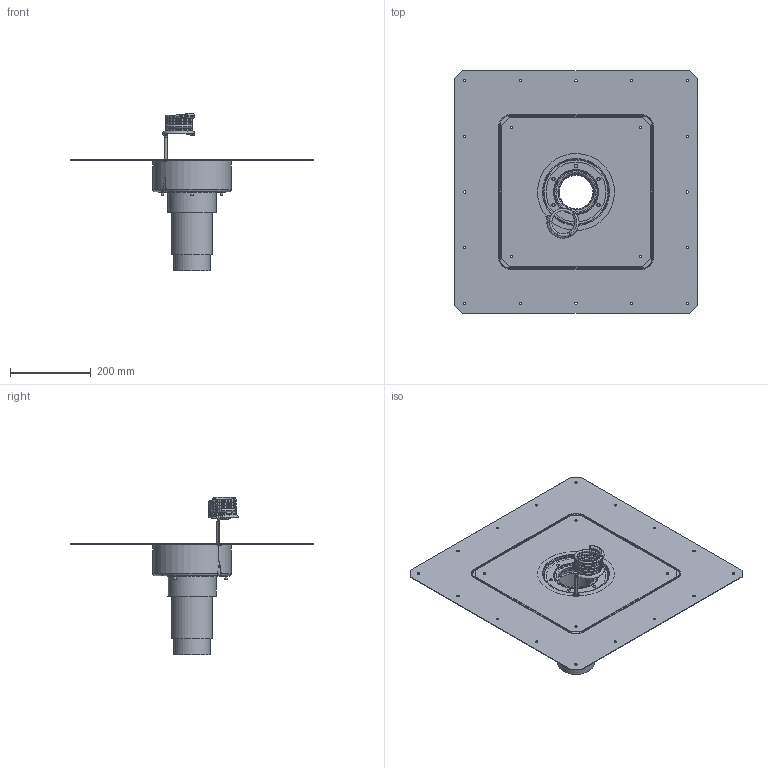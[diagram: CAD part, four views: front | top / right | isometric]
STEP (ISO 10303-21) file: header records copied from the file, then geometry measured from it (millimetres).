
FILE_DESCRIPTION(/* description */ (''),/* implementation_level */ '2;1');
FILE_NAME(/* name */ 'C:\Planerdaten\Export PLA\359.363.00.1\stp\359363.stp',/* time_stamp */ '2020-11-30T13:18:08+01:00',/* author */ ('JANAN'),/* organization */ (''),/* preprocessor_version */ 'ST-DEVELOPER v16.13',/* originating_system */ 'Autodesk Inventor 2018',/* authorisation */ '');
FILE_SCHEMA (('AUTOMOTIVE_DESIGN { 1 0 10303 214 3 1 1 }'));
Length unit declared in the file: millimetre
Products named in the file (1): tmpF942.tmp
Bounding box: 600 x 600 x 388.11 mm (x, y, z)
Volume: 1578546.4 mm3; surface area: 1444814.4 mm2
Topology: 13 solids, 13 shells, 393 faces, 968 edges, 649 vertices
Faces by surface type: cylinder 134, plane 117, bspline 103, cone 22, torus 17
Full cylindrical faces by diameter (mm): 1 x3, 4.8 x9, 5.2 x4, 6 x30, 7 x3, 7.5 x9, 8 x12, 12 x2, 16 x2, 83.025 x1, 90 x1, 90.375 x1, 90.9 x2, 91 x1, 93 x1, 96 x1, 98.25 x1, 100 x1, 100.2 x1, 107.55 x1, 109 x1, 110 x1, 111 x1, 119 x1, 146 x1, 148 x1, 190 x2, 193 x1
Entity records: 28713 total; most frequent: CARTESIAN_POINT 19958, ORIENTED_EDGE 1616, DIRECTION 1449, EDGE_CURVE 808, EDGE_LOOP 690, VERTEX_POINT 628, AXIS2_PLACEMENT_3D 628, STYLED_ITEM 406
